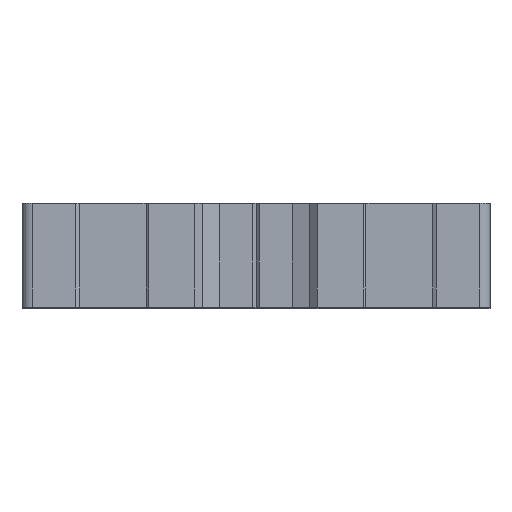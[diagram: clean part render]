
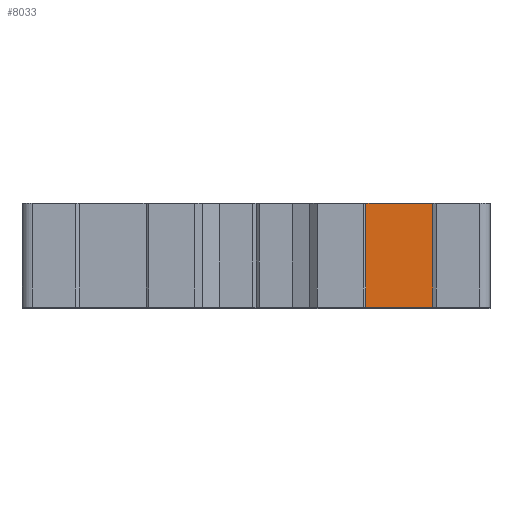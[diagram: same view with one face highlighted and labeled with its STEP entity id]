
A CAD part, top view. The second image highlights one B-rep face of the part: STEP entity #8033.
In plain terms, the highlighted planar face has unit normal (0, 0, 1).
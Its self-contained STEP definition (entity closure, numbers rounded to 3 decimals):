
#636=DIRECTION('',(-1.,0.,0.));
#637=VECTOR('',#636,6.409);
#638=CARTESIAN_POINT('',(16.984,0.,44.8));
#639=LINE('',#638,#637);
#1514=DIRECTION('',(-1.,0.,0.));
#1515=VECTOR('',#1514,6.409);
#1516=CARTESIAN_POINT('',(16.984,10.,44.8));
#1517=LINE('',#1516,#1515);
#2993=DIRECTION('',(0.,1.,0.));
#2994=VECTOR('',#2993,10.);
#2995=CARTESIAN_POINT('',(16.984,0.,44.8));
#2996=LINE('',#2995,#2994);
#2997=DIRECTION('',(0.,1.,0.));
#2998=VECTOR('',#2997,10.);
#2999=CARTESIAN_POINT('',(10.575,0.,44.8));
#3000=LINE('',#2999,#2998);
#4186=CARTESIAN_POINT('',(16.984,0.,44.8));
#4188=VERTEX_POINT('',#4186);
#4189=CARTESIAN_POINT('',(10.575,0.,44.8));
#4190=VERTEX_POINT('',#4189);
#4282=CARTESIAN_POINT('',(16.984,10.,44.8));
#4284=VERTEX_POINT('',#4282);
#4285=CARTESIAN_POINT('',(10.575,10.,44.8));
#4286=VERTEX_POINT('',#4285);
#8021=CARTESIAN_POINT('',(16.984,0.,44.8));
#8022=DIRECTION('',(0.,0.,-1.));
#8023=DIRECTION('',(-1.,0.,0.));
#8024=AXIS2_PLACEMENT_3D('',#8021,#8022,#8023);
#8025=PLANE('',#8024);
#8026=ORIENTED_EDGE('',*,*,#4616,.T.);
#8028=ORIENTED_EDGE('',*,*,#8027,.T.);
#8029=ORIENTED_EDGE('',*,*,#5362,.F.);
#8030=ORIENTED_EDGE('',*,*,#8014,.F.);
#8031=EDGE_LOOP('',(#8026,#8028,#8029,#8030));
#8032=FACE_OUTER_BOUND('',#8031,.F.);
#8033=ADVANCED_FACE('',(#8032),#8025,.F.);
#4616=EDGE_CURVE('',#4188,#4190,#639,.T.);
#5362=EDGE_CURVE('',#4284,#4286,#1517,.T.);
#8014=EDGE_CURVE('',#4188,#4284,#2996,.T.);
#8027=EDGE_CURVE('',#4190,#4286,#3000,.T.);
